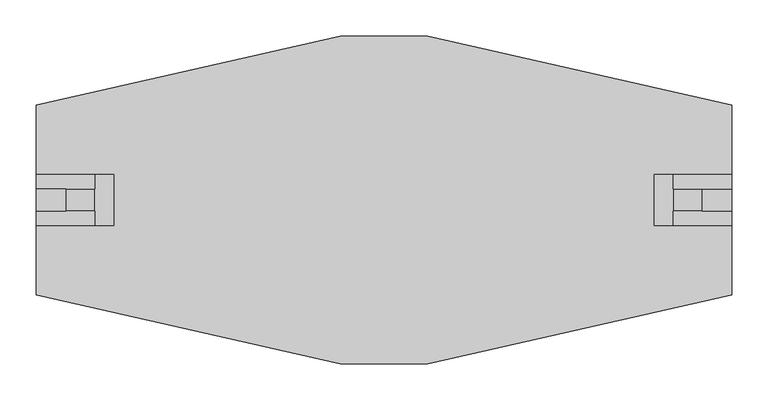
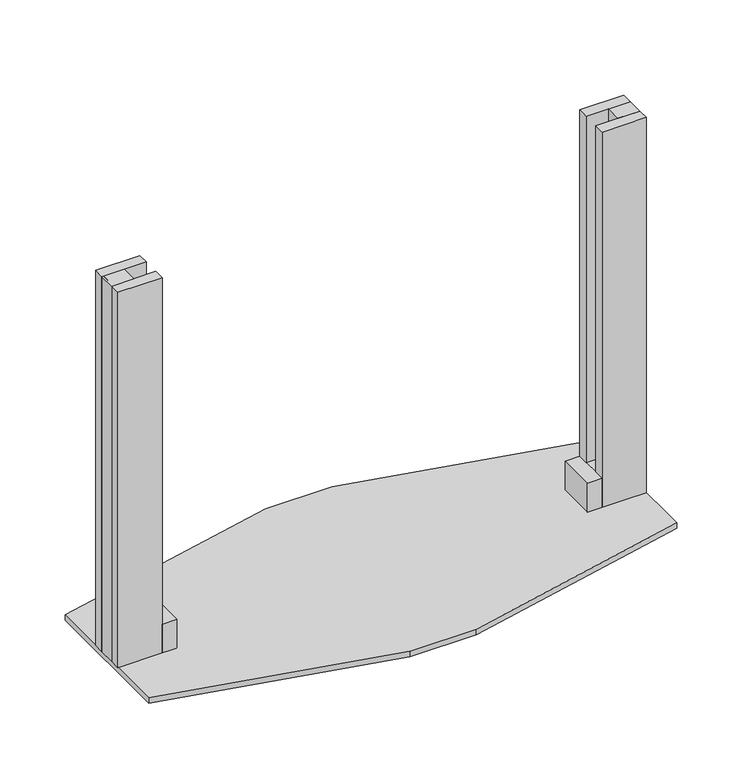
"""IFC4 building model written with IfcOpenShell, lengths in millimetres: proxy geometry, MK-TA24-ZAFE-S02-WD."""

from ifc_helpers import new_model, si_unit, frame, origin, origin_with_axes, place, context, project, spatial, polyline, outline, extrude, source, transform, mapped, element, save


def generic_models_7aa05ec4(model_context):
    return source(origin(), model_context, "Body", "SweptSolid", [
        extrude(outline(polyline([(935.0, 15.0), (855.0, 15.0), (855.0, 35.0), (935.0, 35.0), (935.0, 15.0)])), origin_with_axes(), (0.0, 0.0, 1.0), 717.0),
        extrude(outline(polyline([(20.0, -15.0), (-20.0, -15.0), (-20.0, 15.0), (20.0, 15.0), (20.0, -15.0)])), origin_with_axes(), (0.0, 0.0, 1.0), 717.0),
        extrude(outline(polyline([(-17.5, -12.5), (-17.5, 12.5), (17.5, 12.5), (17.5, -12.5), (-17.5, -12.5)])), frame((0.0, 0.0, 709.0), z_axis=(0.0, 0.0, 1.0), x_axis=(1.0, 0.0, 0.0)), (0.0, 0.0, 1.0), 8.0),
        extrude(outline(polyline([(935.0, -15.0), (895.0, -15.0), (895.0, 15.0), (935.0, 15.0), (935.0, -15.0)])), origin_with_axes(), (0.0, 0.0, 1.0), 717.0),
        extrude(outline(polyline([(897.5, -12.5), (897.5, 12.5), (932.5, 12.5), (932.5, -12.5), (897.5, -12.5)])), frame((0.0, 0.0, 709.0), z_axis=(0.0, 0.0, 1.0), x_axis=(1.0, 0.0, 0.0)), (0.0, 0.0, 1.0), 8.0),
        extrude(outline(polyline([(828.5, -35.0), (828.5, 35.0), (855.0, 35.0), (855.0, -35.0), (828.5, -35.0)])), origin_with_axes(), (0.0, 0.0, 1.0), 55.0),
        extrude(outline(polyline([(86.5, 35.0), (86.5, -35.0), (60.0, -35.0), (60.0, 35.0), (86.5, 35.0)])), origin_with_axes(), (0.0, 0.0, 1.0), 55.0),
        extrude(outline(polyline([(935.0, -35.0), (855.0, -35.0), (855.0, -15.0), (935.0, -15.0), (935.0, -35.0)])), origin_with_axes(), (0.0, 0.0, 1.0), 717.0),
        extrude(outline(polyline([(60.0, 15.0), (60.0, -15.0), (20.0, -15.0), (20.0, 15.0), (60.0, 15.0)])), origin_with_axes(), (0.0, 0.0, 1.0), 55.0),
        extrude(outline(polyline([(60.0, 15.0), (-20.0, 15.0), (-20.0, 35.0), (60.0, 35.0), (60.0, 15.0)])), origin_with_axes(), (0.0, 0.0, 1.0), 717.0),
        extrude(outline(polyline([(855.0, -15.0), (855.0, 15.0), (895.0, 15.0), (895.0, -15.0), (855.0, -15.0)])), origin_with_axes(), (0.0, 0.0, 1.0), 55.0),
        extrude(outline(polyline([(60.0, -35.0), (-20.0, -35.0), (-20.0, -15.0), (60.0, -15.0), (60.0, -35.0)])), origin_with_axes(), (0.0, 0.0, 1.0), 717.0),
        extrude(outline(polyline([(-20.0, -130.7258065), (-20.0, 130.7258065), (397.5, 225.0), (517.5, 225.0), (935.0, 130.7258065), (935.0, -130.7258065), (517.5, -225.0), (397.5, -225.0), (-20.0, -130.7258065)])), frame((0.0, 0.0, -10.0), z_axis=(0.0, 0.0, 1.0), x_axis=(1.0, 0.0, 0.0)), (0.0, 0.0, 1.0), 10.0),
    ])


if __name__ == "__main__":
    model = new_model("IFC4")
    model_context = context("Model", 3, world=origin())
    ifc_project = project(units=[si_unit("LENGTHUNIT", "METRE", prefix="MILLI")], contexts=[model_context])
    site = spatial("IfcSite", under=ifc_project)
    building = spatial("IfcBuilding", under=site)
    placement = place(None, origin())
    generic_models_shape = generic_models_7aa05ec4(model_context)
    element("IfcBuildingElementProxy", 1, Name="MK-TA24-ZAFE-S02-WD", ObjectType="MK-TA24-ZAFE-S02-WD", at=placement, inside=building, context=model_context, shape_type="MappedRepresentation", body=[
        mapped(generic_models_shape, transform((0.0, 0.0, 0.0), x_axis=(1.0, 0.0, 0.0), y_axis=(0.0, 1.0, 0.0), z_axis=(0.0, 0.0, 1.0))),
    ])
    save(model, "model.ifc")
